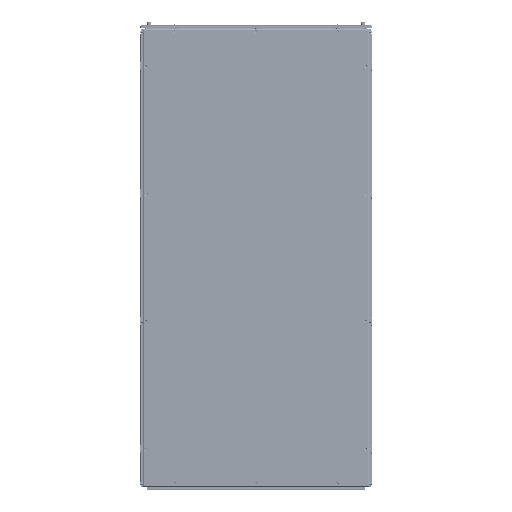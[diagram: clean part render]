
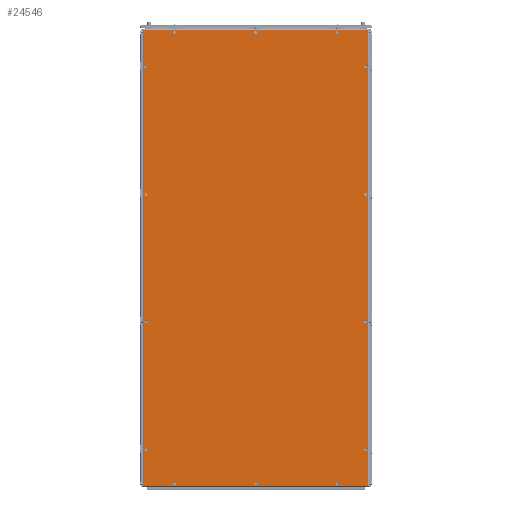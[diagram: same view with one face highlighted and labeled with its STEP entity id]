
A CAD part, left-side view. The second image highlights one B-rep face of the part: STEP entity #24546.
In plain terms, the highlighted planar face has unit normal (-1, 0, 0) as drawn and (1, 0, 0) by its records, which use the part's own axes.
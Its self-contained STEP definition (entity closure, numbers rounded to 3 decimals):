
#24546=ADVANCED_FACE('',(#149199,#149201,#149203,#149205,#149207,#149209,#149211,
#149213,#149215,#149217,#149219,#149221,#149223,#149225,#149227),#149229,.T.);
#149199=FACE_BOUND('',#149200,.T.);
#149200=EDGE_LOOP('',(#366105,#366106,#366107,#366108));
#149201=FACE_BOUND('',#149202,.T.);
#149202=EDGE_LOOP('',(#366109));
#149203=FACE_BOUND('',#149204,.T.);
#149204=EDGE_LOOP('',(#366110));
#149205=FACE_BOUND('',#149206,.T.);
#149206=EDGE_LOOP('',(#366111));
#149207=FACE_BOUND('',#149208,.T.);
#149208=EDGE_LOOP('',(#366112));
#149209=FACE_BOUND('',#149210,.T.);
#149210=EDGE_LOOP('',(#366113));
#149211=FACE_BOUND('',#149212,.T.);
#149212=EDGE_LOOP('',(#366114));
#149213=FACE_BOUND('',#149214,.T.);
#149214=EDGE_LOOP('',(#366115));
#149215=FACE_BOUND('',#149216,.T.);
#149216=EDGE_LOOP('',(#366116));
#149217=FACE_BOUND('',#149218,.T.);
#149218=EDGE_LOOP('',(#366117));
#149219=FACE_BOUND('',#149220,.T.);
#149220=EDGE_LOOP('',(#366118));
#149221=FACE_BOUND('',#149222,.T.);
#149222=EDGE_LOOP('',(#366119));
#149223=FACE_BOUND('',#149224,.T.);
#149224=EDGE_LOOP('',(#366120));
#149225=FACE_BOUND('',#149226,.T.);
#149226=EDGE_LOOP('',(#366121));
#149227=FACE_BOUND('',#149228,.T.);
#149228=EDGE_LOOP('',(#366122));
#149229=PLANE('',#149230);
#149230=AXIS2_PLACEMENT_3D('',#149231,#149232,#149233);
#149231=CARTESIAN_POINT('',(1.5,0.,0.));
#149232=DIRECTION('',(1.,0.,0.));
#149233=DIRECTION('',(0.,1.,0.));
#366105=ORIENTED_EDGE('',*,*,#411590,.T.);
#366106=ORIENTED_EDGE('',*,*,#411596,.T.);
#366107=ORIENTED_EDGE('',*,*,#411594,.T.);
#366108=ORIENTED_EDGE('',*,*,#411592,.T.);
#366109=ORIENTED_EDGE('',*,*,#411611,.T.);
#366110=ORIENTED_EDGE('',*,*,#411612,.T.);
#366111=ORIENTED_EDGE('',*,*,#411613,.T.);
#366112=ORIENTED_EDGE('',*,*,#411614,.T.);
#366113=ORIENTED_EDGE('',*,*,#411615,.T.);
#366114=ORIENTED_EDGE('',*,*,#411616,.T.);
#366115=ORIENTED_EDGE('',*,*,#411617,.T.);
#366116=ORIENTED_EDGE('',*,*,#411618,.T.);
#366117=ORIENTED_EDGE('',*,*,#411619,.T.);
#366118=ORIENTED_EDGE('',*,*,#411620,.T.);
#366119=ORIENTED_EDGE('',*,*,#411621,.T.);
#366120=ORIENTED_EDGE('',*,*,#411622,.T.);
#366121=ORIENTED_EDGE('',*,*,#411623,.T.);
#366122=ORIENTED_EDGE('',*,*,#411624,.T.);
#411590=EDGE_CURVE('',#473366,#473364,#473367,.T.);
#411592=EDGE_CURVE('',#473369,#473366,#473370,.T.);
#411594=EDGE_CURVE('',#473372,#473369,#473373,.T.);
#411596=EDGE_CURVE('',#473364,#473372,#473375,.T.);
#411611=EDGE_CURVE('',#473404,#473404,#473405,.F.);
#411612=EDGE_CURVE('',#473406,#473406,#473407,.F.);
#411613=EDGE_CURVE('',#473408,#473408,#473409,.F.);
#411614=EDGE_CURVE('',#473410,#473410,#473411,.F.);
#411615=EDGE_CURVE('',#473412,#473412,#473413,.F.);
#411616=EDGE_CURVE('',#473414,#473414,#473415,.F.);
#411617=EDGE_CURVE('',#473416,#473416,#473417,.F.);
#411618=EDGE_CURVE('',#473418,#473418,#473419,.F.);
#411619=EDGE_CURVE('',#473420,#473420,#473421,.F.);
#411620=EDGE_CURVE('',#473422,#473422,#473423,.F.);
#411621=EDGE_CURVE('',#473424,#473424,#473425,.F.);
#411622=EDGE_CURVE('',#473426,#473426,#473427,.F.);
#411623=EDGE_CURVE('',#473428,#473428,#473429,.F.);
#411624=EDGE_CURVE('',#473430,#473430,#473431,.T.);
#473364=VERTEX_POINT('',#613507);
#473366=VERTEX_POINT('',#613512);
#473367=LINE('',#613513,#613514);
#473369=VERTEX_POINT('',#613520);
#473370=LINE('',#613521,#613522);
#473372=VERTEX_POINT('',#613528);
#473373=LINE('',#613529,#613530);
#473375=LINE('',#613536,#613537);
#473404=VERTEX_POINT('',#613609);
#473405=CIRCLE('',#613610,6.954);
#473406=VERTEX_POINT('',#613614);
#473407=CIRCLE('',#613615,6.954);
#473408=VERTEX_POINT('',#613619);
#473409=CIRCLE('',#613620,6.954);
#473410=VERTEX_POINT('',#613624);
#473411=CIRCLE('',#613625,6.954);
#473412=VERTEX_POINT('',#613629);
#473413=CIRCLE('',#613630,6.954);
#473414=VERTEX_POINT('',#613634);
#473415=CIRCLE('',#613635,6.954);
#473416=VERTEX_POINT('',#613639);
#473417=CIRCLE('',#613640,6.954);
#473418=VERTEX_POINT('',#613644);
#473419=CIRCLE('',#613645,6.954);
#473420=VERTEX_POINT('',#613649);
#473421=CIRCLE('',#613650,6.954);
#473422=VERTEX_POINT('',#613654);
#473423=CIRCLE('',#613655,6.954);
#473424=VERTEX_POINT('',#613659);
#473425=CIRCLE('',#613660,6.954);
#473426=VERTEX_POINT('',#613664);
#473427=CIRCLE('',#613665,6.954);
#473428=VERTEX_POINT('',#613669);
#473429=CIRCLE('',#613670,6.954);
#473430=VERTEX_POINT('',#613674);
#473431=CIRCLE('',#613675,6.954);
#613507=CARTESIAN_POINT('',(1.5,-483.7,-982.7));
#613512=CARTESIAN_POINT('',(1.5,-483.7,982.7));
#613513=CARTESIAN_POINT('',(1.5,-483.7,982.7));
#613514=VECTOR('',#613515,1.);
#613515=DIRECTION('',(0.,0.,-1.));
#613520=CARTESIAN_POINT('',(1.5,483.7,982.7));
#613521=CARTESIAN_POINT('',(1.5,483.7,982.7));
#613522=VECTOR('',#613523,1.);
#613523=DIRECTION('',(0.,-1.,0.));
#613528=CARTESIAN_POINT('',(1.5,483.7,-982.7));
#613529=CARTESIAN_POINT('',(1.5,483.7,-982.7));
#613530=VECTOR('',#613531,1.);
#613531=DIRECTION('',(0.,0.,1.));
#613536=CARTESIAN_POINT('',(1.5,-483.7,-982.7));
#613537=VECTOR('',#613538,1.);
#613538=DIRECTION('',(0.,1.,0.));
#613609=CARTESIAN_POINT('',(1.5,6.954,-973.5));
#613610=AXIS2_PLACEMENT_3D('',#613611,#613612,#613613);
#613611=CARTESIAN_POINT('',(1.5,0.,-973.5));
#613612=DIRECTION('',(1.,0.,0.));
#613613=DIRECTION('',(0.,1.,0.));
#613614=CARTESIAN_POINT('',(1.5,6.954,973.5));
#613615=AXIS2_PLACEMENT_3D('',#613616,#613617,#613618);
#613616=CARTESIAN_POINT('',(1.5,0.,973.5));
#613617=DIRECTION('',(1.,0.,0.));
#613618=DIRECTION('',(0.,1.,0.));
#613619=CARTESIAN_POINT('',(1.5,356.954,973.5));
#613620=AXIS2_PLACEMENT_3D('',#613621,#613622,#613623);
#613621=CARTESIAN_POINT('',(1.5,350.,973.5));
#613622=DIRECTION('',(1.,0.,0.));
#613623=DIRECTION('',(0.,1.,0.));
#613624=CARTESIAN_POINT('',(1.5,356.954,-973.5));
#613625=AXIS2_PLACEMENT_3D('',#613626,#613627,#613628);
#613626=CARTESIAN_POINT('',(1.5,350.,-973.5));
#613627=DIRECTION('',(1.,0.,0.));
#613628=DIRECTION('',(0.,1.,0.));
#613629=CARTESIAN_POINT('',(1.5,-343.046,973.5));
#613630=AXIS2_PLACEMENT_3D('',#613631,#613632,#613633);
#613631=CARTESIAN_POINT('',(1.5,-350.,973.5));
#613632=DIRECTION('',(1.,0.,0.));
#613633=DIRECTION('',(0.,1.,0.));
#613634=CARTESIAN_POINT('',(1.5,-343.046,-973.5));
#613635=AXIS2_PLACEMENT_3D('',#613636,#613637,#613638);
#613636=CARTESIAN_POINT('',(1.5,-350.,-973.5));
#613637=DIRECTION('',(1.,0.,0.));
#613638=DIRECTION('',(0.,1.,0.));
#613639=CARTESIAN_POINT('',(1.5,480.454,-275.));
#613640=AXIS2_PLACEMENT_3D('',#613641,#613642,#613643);
#613641=CARTESIAN_POINT('',(1.5,473.5,-275.));
#613642=DIRECTION('',(1.,0.,0.));
#613643=DIRECTION('',(0.,1.,0.));
#613644=CARTESIAN_POINT('',(1.5,480.454,275.));
#613645=AXIS2_PLACEMENT_3D('',#613646,#613647,#613648);
#613646=CARTESIAN_POINT('',(1.5,473.5,275.));
#613647=DIRECTION('',(1.,0.,0.));
#613648=DIRECTION('',(0.,1.,0.));
#613649=CARTESIAN_POINT('',(1.5,-466.546,-275.));
#613650=AXIS2_PLACEMENT_3D('',#613651,#613652,#613653);
#613651=CARTESIAN_POINT('',(1.5,-473.5,-275.));
#613652=DIRECTION('',(1.,0.,0.));
#613653=DIRECTION('',(0.,1.,0.));
#613654=CARTESIAN_POINT('',(1.5,-466.546,275.));
#613655=AXIS2_PLACEMENT_3D('',#613656,#613657,#613658);
#613656=CARTESIAN_POINT('',(1.5,-473.5,275.));
#613657=DIRECTION('',(1.,0.,0.));
#613658=DIRECTION('',(0.,1.,0.));
#613659=CARTESIAN_POINT('',(1.5,480.454,825.));
#613660=AXIS2_PLACEMENT_3D('',#613661,#613662,#613663);
#613661=CARTESIAN_POINT('',(1.5,473.5,825.));
#613662=DIRECTION('',(1.,0.,0.));
#613663=DIRECTION('',(0.,1.,0.));
#613664=CARTESIAN_POINT('',(1.5,480.454,-825.));
#613665=AXIS2_PLACEMENT_3D('',#613666,#613667,#613668);
#613666=CARTESIAN_POINT('',(1.5,473.5,-825.));
#613667=DIRECTION('',(1.,0.,0.));
#613668=DIRECTION('',(0.,1.,0.));
#613669=CARTESIAN_POINT('',(1.5,-466.546,-825.));
#613670=AXIS2_PLACEMENT_3D('',#613671,#613672,#613673);
#613671=CARTESIAN_POINT('',(1.5,-473.5,-825.));
#613672=DIRECTION('',(1.,0.,0.));
#613673=DIRECTION('',(0.,1.,0.));
#613674=CARTESIAN_POINT('',(1.5,-466.546,825.));
#613675=AXIS2_PLACEMENT_3D('',#613676,#613677,#613678);
#613676=CARTESIAN_POINT('',(1.5,-473.5,825.));
#613677=DIRECTION('',(-1.,0.,0.));
#613678=DIRECTION('',(0.,1.,0.));
